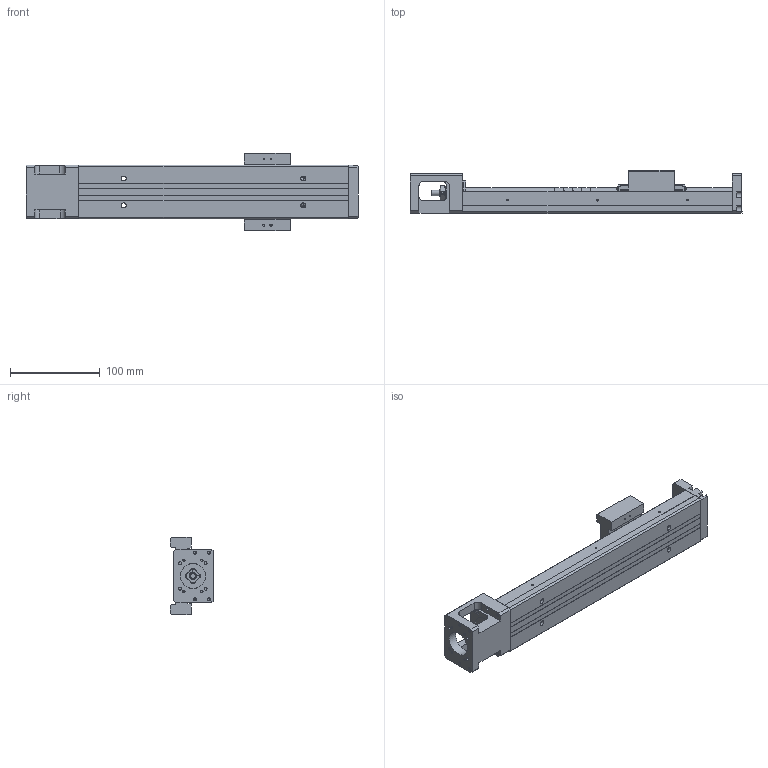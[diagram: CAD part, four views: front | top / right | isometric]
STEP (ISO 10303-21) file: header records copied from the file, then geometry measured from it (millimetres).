
FILE_DESCRIPTION(/* description */ (''),/* implementation_level */ '2;1');
FILE_NAME(/* name */ 'KP33N-300.stp',/* time_stamp */ '2019-02-25T14:59:37+08:00',/* author */ (''),/* organization */ (''),/* preprocessor_version */ 'ST-DEVELOPER v11',/* originating_system */ 'SIEMENS UGS NX 6.0',/* authorisation */ '');
FILE_SCHEMA (('CONFIG_CONTROL_DESIGN'));
Length unit declared in the file: millimetre
Products named in the file (1): darrFF5Egx7r
Bounding box: 370 x 47.95 x 86 mm (x, y, z)
Volume: 500541.3 mm3; surface area: 139023.4 mm2
Topology: 6 solids, 11 shells, 683 faces, 1719 edges, 1135 vertices
Faces by surface type: plane 407, cylinder 189, bspline 31, cone 24, extrusion 21, torus 9, revolution 2
Full cylindrical faces by diameter (mm): 1.6 x5, 1.65 x4, 2.15 x3, 2.42 x4, 2.45 x4, 2.5 x18, 3 x3, 3.2 x4, 3.3 x4, 3.4 x3, 3.5 x10, 3.969 x1, 4 x6, 4.001 x1, 4.135 x4, 4.2 x4, 5.5 x4, 6 x5, 7.6 x1, 8 x5, 9.5 x4, 10.72 x3, 11.8 x2, 12 x6, 12.8 x1, 13 x2, 14 x1, 17.38 x3, 21.5 x1, 22 x2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
Entity records: 31807 total; most frequent: CARTESIAN_POINT 16317, DIRECTION 3086, ORIENTED_EDGE 2982, EDGE_CURVE 1491, AXIS2_PLACEMENT_3D 1084, VERTEX_POINT 1061, EDGE_LOOP 968, VECTOR 916
